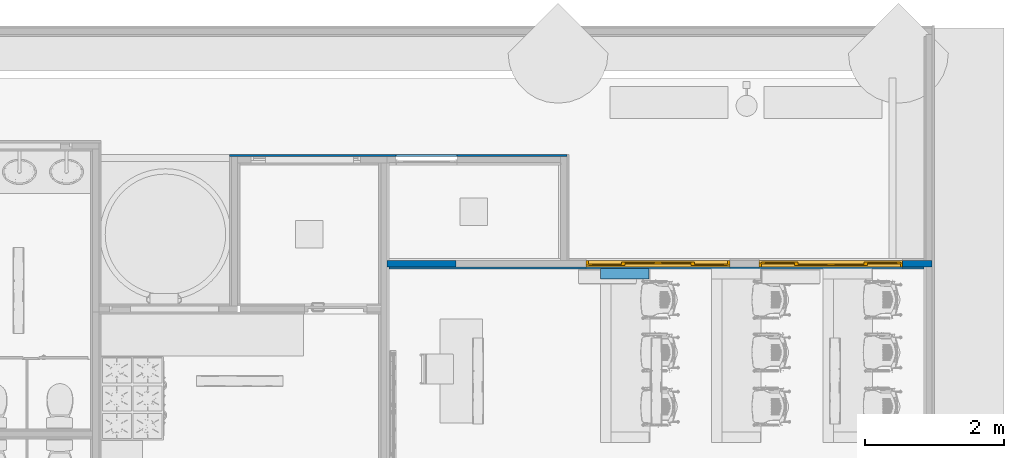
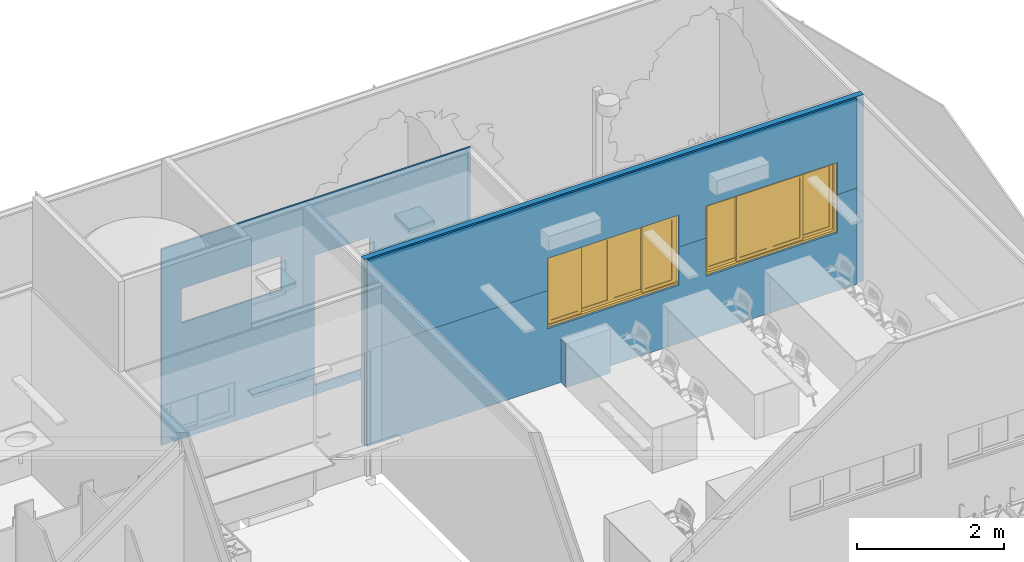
# One storey, part 43 of 155: 5 walls, 2 windows, 10 openings.
"""IFC2X3 building model written with IfcOpenShell, lengths in metres."""

from ifc_helpers import new_model, entity, si_unit, converted_unit, derived_unit, direction, frame, frame_2d, origin, origin_2d_with_axis, place, context, subcontext, project, spatial, polyline, rectangle, outline, extrude, source, transform, mapped, material, material_list, layer, layer_set, layer_usage, type_object, type_shapes, element, fill, save


model = new_model("IFC2X3")

# Units and contexts
model_context = context("Model", 3, precision=1e-05, world=origin(), true_north=direction((6.12303176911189e-17, 1.0)))
body_context = subcontext(model_context, "Body", "Model", "MODEL_VIEW")
ifc_project = project(units=[si_unit("LENGTHUNIT", "METRE"), si_unit("AREAUNIT", "SQUARE_METRE"), si_unit("VOLUMEUNIT", "CUBIC_METRE"), converted_unit("PLANEANGLEUNIT", "DEGREE", entity("IfcRatioMeasure", 0.0174532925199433), si_unit("PLANEANGLEUNIT", "RADIAN"), dimensions=[0, 0, 0, 0, 0, 0, 0]), si_unit("MASSUNIT", "GRAM", prefix="KILO"), derived_unit("MASSDENSITYUNIT", [(si_unit("MASSUNIT", "GRAM", prefix="KILO"), 1), (si_unit("LENGTHUNIT", "METRE"), -3)]), si_unit("TIMEUNIT", "SECOND"), si_unit("FREQUENCYUNIT", "HERTZ"), si_unit("THERMODYNAMICTEMPERATUREUNIT", "DEGREE_CELSIUS"), derived_unit("THERMALTRANSMITTANCEUNIT", [(si_unit("MASSUNIT", "GRAM", prefix="KILO"), 1), (si_unit("THERMODYNAMICTEMPERATUREUNIT", "KELVIN"), -1), (si_unit("TIMEUNIT", "SECOND"), -3)]), derived_unit("VOLUMETRICFLOWRATEUNIT", [(si_unit("LENGTHUNIT", "METRE"), 3), (si_unit("TIMEUNIT", "SECOND"), -1)]), si_unit("ELECTRICCURRENTUNIT", "AMPERE"), si_unit("ELECTRICVOLTAGEUNIT", "VOLT"), si_unit("POWERUNIT", "WATT"), si_unit("FORCEUNIT", "NEWTON", prefix="KILO"), si_unit("ILLUMINANCEUNIT", "LUX"), si_unit("LUMINOUSFLUXUNIT", "LUMEN"), si_unit("LUMINOUSINTENSITYUNIT", "CANDELA"), derived_unit("USERDEFINED", [(si_unit("MASSUNIT", "GRAM", prefix="KILO"), -1), (si_unit("LENGTHUNIT", "METRE"), -2), (si_unit("TIMEUNIT", "SECOND"), 3), (si_unit("LUMINOUSFLUXUNIT", "LUMEN"), 1)]), derived_unit("LINEARVELOCITYUNIT", [(si_unit("LENGTHUNIT", "METRE"), 1), (si_unit("TIMEUNIT", "SECOND"), -1)]), si_unit("PRESSUREUNIT", "PASCAL"), derived_unit("USERDEFINED", [(si_unit("LENGTHUNIT", "METRE"), -2), (si_unit("MASSUNIT", "GRAM", prefix="KILO"), 1), (si_unit("TIMEUNIT", "SECOND"), -2)])], contexts=[model_context])

# Site, building, storey
site_placement = place(None, frame((26.9889013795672, -17.5624287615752, 0.0)))
site = spatial("IfcSite", under=ifc_project, at=site_placement, Name="Default", CompositionType="ELEMENT")
building_placement = place(site_placement, origin())
building = spatial("IfcBuilding", under=site, at=building_placement, Name="C. C. L. Monsenhor Antônio Sampaio", CompositionType="ELEMENT")
storey_placement = place(building_placement, frame((0.0, 0.0, 1.19999999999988)))
storey = spatial("IfcBuildingStorey", under=building, at=storey_placement, Name="Nível 1.2", CompositionType="ELEMENT", Elevation=1.19999999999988)

# Wall, openings, windows
ifc_material_1 = material(Name="ALVENARIA")
ifc_layer_1 = layer(ifc_material_1, 0.09)
ifc_layer_set_1 = layer_set([ifc_layer_1], Name="Parede básica:ENucleo parede 15cm")
ifc_layer_usage_1 = layer_usage(ifc_layer_set_1, "AXIS2", "POSITIVE", -0.045)
wall_type_1 = type_object("IfcWallType", Name="Parede básica:ENucleo parede 15cm", PredefinedType="STANDARD", material=ifc_layer_set_1)
wall_1_placement = place(storey_placement, frame((3.84961597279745, -10.2280663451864, 0.0)))
wall_1 = element("IfcWallStandardCase", 1, at=wall_1_placement, inside=storey, type_object=wall_type_1, material=ifc_layer_usage_1, Name="Parede básica:ENucleo parede 15cm", ObjectType="Parede básica:ENucleo parede 15cm", context=body_context, shape_type="SweptSolid", body=[
    extrude(rectangle(XDim=7.84983173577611, YDim=0.0900000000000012, at=frame_2d((3.92491586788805, 1.49186218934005e-16), x_axis=(-1.0, 0.0))), origin(), (0.0, 0.0, 1.0), 3.10000000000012),
])
opening_1_placement = place(wall_1_placement, frame((-3.84961597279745, 10.2280663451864, 0.0)))
element("IfcOpeningElement", 2, at=opening_1_placement, cuts=wall_1, Name="Parede básica:ENucleo parede 15cm", ObjectType="Opening", context=body_context, shape_type="SweptSolid", body=[
    extrude(rectangle(XDim=1.17000000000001, YDim=2.07, at=frame_2d((1.11022302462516e-16, 2.22044604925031e-16), x_axis=(1.0, 0.0))), frame((5.87444770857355, -11.7970663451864, 1.55000000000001), z_axis=(0.0, 1.0, 0.0), x_axis=(0.0, 0.0, 1.0)), (0.0, 0.0, 1.0), 3.048),
])
opening_2_placement = place(wall_1_placement, frame((4.93499999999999, 0.0449999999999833, 0.965000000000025)))
opening_2 = element("IfcOpeningElement", 3, at=opening_2_placement, cuts=wall_1, Name="Janela 200x110:200 x 110:1", ObjectType="Opening", context=body_context, shape_type="SweptSolid", body=[
    extrude(rectangle(XDim=1.17, YDim=2.07, at=frame_2d((0.585000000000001, 1.035), x_axis=(1.0, 0.0))), frame((0.0, 0.0, 0.0), z_axis=(0.0, -1.0, 0.0), x_axis=(0.0, 0.0, 1.0)), (0.0, 0.0, 1.0), 0.09),
])
opening_3_placement = place(wall_1_placement, frame((-3.84961597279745, 10.2280663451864, 0.0)))
element("IfcOpeningElement", 4, at=opening_3_placement, cuts=wall_1, Name="Parede básica:ENucleo parede 15cm", ObjectType="Opening", context=body_context, shape_type="SweptSolid", body=[
    extrude(rectangle(XDim=1.17000000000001, YDim=2.07, at=frame_2d((-5.55111512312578e-16, -4.44089209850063e-16), x_axis=(0.0, 1.0))), frame((9.04444770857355, -11.7970663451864, 1.55000000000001), z_axis=(0.0, 1.0, 0.0), x_axis=(-1.0, 0.0, 0.0)), (0.0, 0.0, 1.0), 3.048),
])
opening_4_placement = place(wall_1_placement, frame((5.35483173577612, -0.0450000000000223, 0.965000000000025)))
opening_4 = element("IfcOpeningElement", 5, at=opening_4_placement, cuts=wall_1, Name="Janela 200x110:200 x 110:1", ObjectType="Opening", context=body_context, shape_type="SweptSolid", body=[
    extrude(rectangle(XDim=1.17, YDim=2.07, at=frame_2d((0.585000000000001, 1.035), x_axis=(1.0, 0.0))), frame((0.0, 0.0, 0.0), z_axis=(0.0, 1.0, 0.0), x_axis=(0.0, 0.0, 1.0)), (0.0, 0.0, 1.0), 0.09),
])
ifc_material_2 = material(Name="VIDRO COMUM LISO VERDE")
ifc_material_3 = material(Name="ALUMÍNIO COM PINTURA ELETROSTÁTICA BRANCA")
ifc_material_list_1 = material_list([ifc_material_2, ifc_material_3])
ifc_material_list_2 = material_list([ifc_material_2, ifc_material_3])
window_style = type_object("IfcWindowStyle", Name="200 x 110", ConstructionType="NOTDEFINED", OperationType="NOTDEFINED", ParameterTakesPrecedence=False, Sizeable=False, material=ifc_material_list_2)
shared_shape = source(origin(), body_context, "Body", "SweptSolid", [
    extrude(rectangle(XDim=0.425, YDim=0.00599999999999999, at=origin_2d_with_axis()), frame((1.7725, 0.058375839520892, 0.0849999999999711), z_axis=(0.0, 0.0, 1.0), x_axis=(-1.0, 0.0, 0.0)), (0.0, 0.0, 1.0), 1.0),
    extrude(outline(polyline([(-0.550000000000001, -0.2625), (0.550000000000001, -0.2625), (0.550000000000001, 0.2625), (-0.550000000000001, 0.2625), (-0.550000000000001, -0.2625)]), holes=[polyline([(-0.500000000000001, -0.2125), (-0.500000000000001, 0.2125), (0.500000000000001, 0.2125), (0.500000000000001, -0.2125), (-0.500000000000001, -0.2125)])]), frame((1.7725, 0.0458758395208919, 0.584999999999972), z_axis=(0.0, 1.0, 0.0), x_axis=(0.0, 0.0, -1.0)), (0.0, 0.0, 1.0), 0.025),
    extrude(rectangle(XDim=0.00599999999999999, YDim=0.425, at=origin_2d_with_axis()), frame((1.2975, 0.0333758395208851, 0.0849999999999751), z_axis=(0.0, 0.0, 1.0), x_axis=(0.0, -1.0, 0.0)), (0.0, 0.0, 1.0), 1.0),
    extrude(outline(polyline([(-0.2625, -0.550000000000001), (0.2625, -0.550000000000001), (0.2625, 0.550000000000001), (-0.2625, 0.550000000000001), (-0.2625, -0.550000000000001)]), holes=[polyline([(-0.2125, -0.500000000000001), (-0.2125, 0.500000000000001), (0.2125, 0.500000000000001), (0.2125, -0.500000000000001), (-0.2125, -0.500000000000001)])]), frame((1.2975, 0.020875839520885, 0.584999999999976), z_axis=(0.0, 1.0, 0.0), x_axis=(1.0, 0.0, 0.0)), (0.0, 0.0, 1.0), 0.025),
    extrude(rectangle(XDim=0.00599999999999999, YDim=0.425, at=frame_2d((0.0, 2.77555756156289e-17), x_axis=(1.0, 0.0))), frame((0.297499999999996, 0.058375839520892, 0.0849999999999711), z_axis=(0.0, 0.0, 1.0), x_axis=(0.0, -1.0, 0.0)), (0.0, 0.0, 1.0), 1.0),
    extrude(outline(polyline([(-0.2625, -0.550000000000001), (0.2625, -0.550000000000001), (0.2625, 0.550000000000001), (-0.2625, 0.550000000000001), (-0.2625, -0.550000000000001)]), holes=[polyline([(-0.2125, -0.500000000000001), (-0.2125, 0.500000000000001), (0.2125, 0.500000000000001), (0.2125, -0.500000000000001), (-0.2125, -0.500000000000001)])]), frame((0.297499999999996, 0.0458758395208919, 0.584999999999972), z_axis=(0.0, 1.0, 0.0), x_axis=(1.0, 0.0, 0.0)), (0.0, 0.0, 1.0), 0.025),
    extrude(rectangle(XDim=0.425, YDim=0.00599999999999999, at=origin_2d_with_axis()), frame((0.772499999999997, 0.0333758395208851, 0.0849999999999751), z_axis=(0.0, 0.0, 1.0), x_axis=(-1.0, 0.0, 0.0)), (0.0, 0.0, 1.0), 1.0),
    extrude(outline(polyline([(-0.550000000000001, -0.2625), (0.550000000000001, -0.2625), (0.550000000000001, 0.2625), (-0.550000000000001, 0.2625), (-0.550000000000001, -0.2625)]), holes=[polyline([(-0.500000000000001, -0.2125), (-0.500000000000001, 0.2125), (0.500000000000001, 0.2125), (0.500000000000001, -0.2125), (-0.500000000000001, -0.2125)])]), frame((0.772499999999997, 0.020875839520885, 0.584999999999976), z_axis=(0.0, 1.0, 0.0), x_axis=(0.0, 0.0, -1.0)), (0.0, 0.0, 1.0), 0.025),
    extrude(rectangle(XDim=0.06, YDim=0.0349999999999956, at=origin_2d_with_axis()), frame((2.05249999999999, 0.03, 0.03499999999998), z_axis=(0.0, 0.0, 1.0), x_axis=(0.0, -1.0, 0.0)), (0.0, 0.0, 1.0), 1.1),
    extrude(rectangle(XDim=0.06, YDim=0.0349999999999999, at=origin_2d_with_axis()), frame((0.0174999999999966, 0.03, 0.0349999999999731), z_axis=(0.0, 0.0, 1.0), x_axis=(0.0, -1.0, 0.0)), (0.0, 0.0, 1.0), 1.10000000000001),
    extrude(rectangle(XDim=0.09, YDim=2.07, at=origin_2d_with_axis()), frame((1.035, 0.045, 0.0), z_axis=(0.0, 0.0, 1.0), x_axis=(0.0, -1.0, 0.0)), (0.0, 0.0, 1.0), 0.0349999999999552),
    extrude(rectangle(XDim=0.06, YDim=2.07, at=origin_2d_with_axis()), frame((1.035, 0.03, 1.13499999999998), z_axis=(0.0, 0.0, 1.0), x_axis=(0.0, -1.0, 0.0)), (0.0, 0.0, 1.0), 0.0350000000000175),
])
type_shapes(window_style, [shared_shape])
window_1_placement = place(opening_2_placement, frame((0.0, 0.0, 0.0), z_axis=(0.0, 0.0, 1.0), x_axis=(-1.0, 0.0, 0.0)))
window_1 = element("IfcWindow", 6, at=window_1_placement, inside=storey, type_object=window_style, material=ifc_material_list_1, Name="Janela 200x110:200 x 110", ObjectType="200 x 110", OverallHeight=1.17, OverallWidth=2.07, context=body_context, shape_type="MappedRepresentation", body=[
    mapped(shared_shape, transform((0.0, 0.0, 0.0), scale=1.0)),
])
fill(opening_2, window_1)
ifc_material_list_3 = material_list([ifc_material_2, ifc_material_3])
window_2_placement = place(opening_4_placement, origin())
window_2 = element("IfcWindow", 7, at=window_2_placement, inside=storey, type_object=window_style, material=ifc_material_list_3, Name="Janela 200x110:200 x 110", ObjectType="200 x 110", OverallHeight=1.17, OverallWidth=2.07, context=body_context, shape_type="MappedRepresentation", body=[
    mapped(shared_shape, transform((0.0, 0.0, 0.0), scale=1.0)),
])
fill(opening_4, window_2)

# Wall, openings
ifc_material_4 = material(Name=".CERÂMICA 10x10 BRANCA")
ifc_layer_2 = layer(ifc_material_4, 0.0035)
ifc_material_5 = material(Name="Argamassa Colante")
ifc_layer_3 = layer(ifc_material_5, 0.02)
ifc_material_6 = material(Name="4")
ifc_layer_4 = layer(ifc_material_6, 0.0015)
ifc_material_7 = material(Name="3")
ifc_layer_5 = layer(ifc_material_7, 0.005)
ifc_layer_set_2 = layer_set([ifc_layer_2, ifc_layer_3, ifc_layer_4, ifc_layer_5], Name="Parede básica:ECeramica branca 10x10cm")
ifc_layer_usage_2 = layer_usage(ifc_layer_set_2, "AXIS2", "NEGATIVE", 0.015)
wall_type_2 = type_object("IfcWallType", Name="Parede básica:ECeramica branca 10x10cm", PredefinedType="STANDARD", material=ifc_layer_set_2)
wall_2_placement = place(storey_placement, frame((11.5794477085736, -10.2880663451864, 0.0), z_axis=(0.0, 0.0, 1.0), x_axis=(-1.0, 0.0, 0.0)))
wall_2 = element("IfcWallStandardCase", 8, at=wall_2_placement, inside=storey, type_object=wall_type_2, material=ifc_layer_usage_2, Name="Parede básica:ECeramica branca 10x10cm", ObjectType="Parede básica:ECeramica branca 10x10cm", context=body_context, shape_type="SweptSolid", body=[
    extrude(rectangle(XDim=7.69983173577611, YDim=0.0300000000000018, at=frame_2d((3.84991586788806, 0.0), x_axis=(-1.0, 0.0))), origin(), (0.0, 0.0, 1.0), 1.6),
])
opening_5_placement = place(wall_2_placement, origin())
element("IfcOpeningElement", 9, at=opening_5_placement, cuts=wall_2, Name="Parede básica:ECeramica branca 10x10cm", ObjectType="Opening", context=body_context, shape_type="SweptSolid", body=[
    extrude(rectangle(XDim=1.17, YDim=2.07, at=frame_2d((0.0, 5.55111512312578e-16), x_axis=(1.0, 0.0))), frame((3.82983173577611, -1.629, 1.55000000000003), z_axis=(0.0, 1.0, 0.0), x_axis=(0.0, 0.0, 1.0)), (0.0, 0.0, 1.0), 3.048),
])
opening_6_placement = place(wall_2_placement, origin())
element("IfcOpeningElement", 10, at=opening_6_placement, cuts=wall_2, Name="Parede básica:ECeramica branca 10x10cm", ObjectType="Opening", context=body_context, shape_type="SweptSolid", body=[
    extrude(rectangle(XDim=1.17, YDim=2.07, at=frame_2d((-5.55111512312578e-16, 0.0), x_axis=(0.0, 1.0))), frame((1.33999999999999, -1.539, 1.55000000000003), z_axis=(0.0, 1.0, 0.0), x_axis=(-1.0, 0.0, 0.0)), (0.0, 0.0, 1.0), 3.048),
])

ifc_material_8 = material(Name="Acabamento Branco")
ifc_layer_6 = layer(ifc_material_8, 0.0035)
ifc_material_9 = material(Name="Massa corrida")
ifc_layer_7 = layer(ifc_material_9, 0.02)
ifc_layer_8 = layer(ifc_material_6, 0.0015)
ifc_layer_9 = layer(ifc_material_7, 0.005)
ifc_layer_set_3 = layer_set([ifc_layer_6, ifc_layer_7, ifc_layer_8, ifc_layer_9], Name="Parede básica:EPintura Branca")
ifc_layer_usage_3 = layer_usage(ifc_layer_set_3, "AXIS2", "NEGATIVE", 0.015)
wall_type_3 = type_object("IfcWallType", Name="Parede básica:EPintura Branca", PredefinedType="STANDARD", material=ifc_layer_set_3)
wall_3_placement = place(storey_placement, frame((11.5794477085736, -10.2880663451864, 1.6), z_axis=(0.0, 0.0, 1.0), x_axis=(-1.0, 0.0, 0.0)))
wall_3 = element("IfcWallStandardCase", 11, at=wall_3_placement, inside=storey, type_object=wall_type_3, material=ifc_layer_usage_3, Name="Parede básica:EPintura Branca", ObjectType="Parede básica:EPintura Branca", context=body_context, shape_type="SweptSolid", body=[
    extrude(rectangle(XDim=7.69983173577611, YDim=0.0300000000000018, at=frame_2d((3.84991586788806, 0.0), x_axis=(-1.0, 0.0))), origin(), (0.0, 0.0, 1.0), 1.50000000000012),
])
opening_7_placement = place(wall_3_placement, origin())
element("IfcOpeningElement", 12, at=opening_7_placement, cuts=wall_3, Name="Parede básica:EPintura Branca", ObjectType="Opening", context=body_context, shape_type="SweptSolid", body=[
    extrude(rectangle(XDim=1.17, YDim=2.07, at=frame_2d((0.0, 5.55111512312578e-16), x_axis=(1.0, 0.0))), frame((3.82983173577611, -1.629, -0.0499999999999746), z_axis=(0.0, 1.0, 0.0), x_axis=(0.0, 0.0, 1.0)), (0.0, 0.0, 1.0), 3.048),
])
opening_8_placement = place(wall_3_placement, origin())
element("IfcOpeningElement", 13, at=opening_8_placement, cuts=wall_3, Name="Parede básica:EPintura Branca", ObjectType="Opening", context=body_context, shape_type="SweptSolid", body=[
    extrude(rectangle(XDim=1.17, YDim=2.07, at=frame_2d((-5.55111512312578e-16, 0.0), x_axis=(0.0, 1.0))), frame((1.33999999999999, -1.539, -0.0499999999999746), z_axis=(0.0, 1.0, 0.0), x_axis=(-1.0, 0.0, 0.0)), (0.0, 0.0, 1.0), 3.048),
])

ifc_material_10 = material(Name="Acabamento amarelo")
ifc_layer_10 = layer(ifc_material_10, 0.0035)
ifc_layer_11 = layer(ifc_material_9, 0.02)
ifc_layer_12 = layer(ifc_material_6, 0.0015)
ifc_layer_13 = layer(ifc_material_7, 0.005)
ifc_layer_set_4 = layer_set([ifc_layer_10, ifc_layer_11, ifc_layer_12, ifc_layer_13], Name="Parede básica:EPintura amarela")
ifc_layer_usage_4 = layer_usage(ifc_layer_set_4, "AXIS2", "POSITIVE", -0.015)
wall_type_4 = type_object("IfcWallType", Name="Parede básica:EPintura amarela", PredefinedType="STANDARD", material=ifc_layer_set_4)
wall_4_placement = place(storey_placement, frame((6.43944770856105, -8.66806634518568, -0.16), z_axis=(0.0, 0.0, 1.0), x_axis=(-1.0, 0.0, 0.0)))
wall_4 = element("IfcWallStandardCase", 14, at=wall_4_placement, inside=storey, type_object=wall_type_4, material=ifc_layer_usage_4, Name="Parede básica:EPintura amarela", ObjectType="Parede básica:EPintura amarela", context=body_context, shape_type="SweptSolid", body=[
    extrude(rectangle(XDim=4.85999999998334, YDim=0.0299999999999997, at=frame_2d((2.42999999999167, 1.00613961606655e-16), x_axis=(-1.0, 0.0))), origin(), (0.0, 0.0, 1.0), 3.26000000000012),
])
opening_9_placement = place(wall_4_placement, origin())
element("IfcOpeningElement", 15, at=opening_9_placement, cuts=wall_4, Name="Parede básica:EPintura amarela", ObjectType="Opening", context=body_context, shape_type="SweptSolid", body=[
    extrude(rectangle(XDim=0.570000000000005, YDim=1.56999999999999, at=frame_2d((5.27355936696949e-16, 1.11022302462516e-16), x_axis=(1.0, 0.0))), frame((3.75999999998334, -1.419, 2.21000000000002), z_axis=(0.0, 1.0, 0.0), x_axis=(0.0, 0.0, 1.0)), (0.0, 0.0, 1.0), 3.048),
])
opening_10_placement = place(wall_4_placement, origin())
element("IfcOpeningElement", 16, at=opening_10_placement, cuts=wall_4, Name="Parede básica:EPintura amarela", ObjectType="Opening", context=body_context, shape_type="SweptSolid", body=[
    extrude(rectangle(XDim=2.15999999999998, YDim=0.88, at=frame_2d((0.0, -2.77555756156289e-16), x_axis=(1.0, 0.0))), frame((2.01983173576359, -1.419, 1.23999999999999), z_axis=(0.0, 1.0, 0.0), x_axis=(0.0, 0.0, 1.0)), (0.0, 0.0, 1.0), 3.048),
])

# Wall
ifc_layer_14 = layer(ifc_material_4, 0.005)
ifc_material_11 = material(Name="Argamassa Cola")
ifc_layer_15 = layer(ifc_material_11, 0.0175)
ifc_material_12 = material(Name="Tijolo, comum, marrom")
ifc_layer_16 = layer(ifc_material_12, 0.105)
ifc_layer_17 = layer(ifc_material_11, 0.0175)
ifc_layer_18 = layer(ifc_material_4, 0.005)
ifc_layer_set_5 = layer_set([ifc_layer_14, ifc_layer_15, ifc_layer_16, ifc_layer_17, ifc_layer_18], Name="Parede básica:INTERNA .15 - REVESTIMENTO BRANCO")
ifc_layer_usage_5 = layer_usage(ifc_layer_set_5, "AXIS2", "POSITIVE", -0.075)
wall_type_5 = type_object("IfcWallType", Name="Parede básica:INTERNA .15 - REVESTIMENTO BRANCO", PredefinedType="STANDARD", material=ifc_layer_set_5)
wall_5_placement = place(storey_placement, frame((7.62194770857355, -10.3730663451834, 0.0), z_axis=(0.0, 0.0, 1.0), x_axis=(-1.0, 0.0, 0.0)))
element("IfcWallStandardCase", 17, at=wall_5_placement, inside=storey, type_object=wall_type_5, material=ifc_layer_usage_5, Name="Parede básica:INTERNA .15 - REVESTIMENTO BRANCO", ObjectType="Parede básica:INTERNA .15 - REVESTIMENTO BRANCO", context=body_context, shape_type="SweptSolid", body=[
    extrude(rectangle(XDim=0.699999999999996, YDim=0.150000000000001, at=frame_2d((0.349999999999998, 1.38777878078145e-16), x_axis=(-1.0, 0.0))), origin(), (0.0, 0.0, 1.0), 0.73),
])

save(model, "model.ifc")
